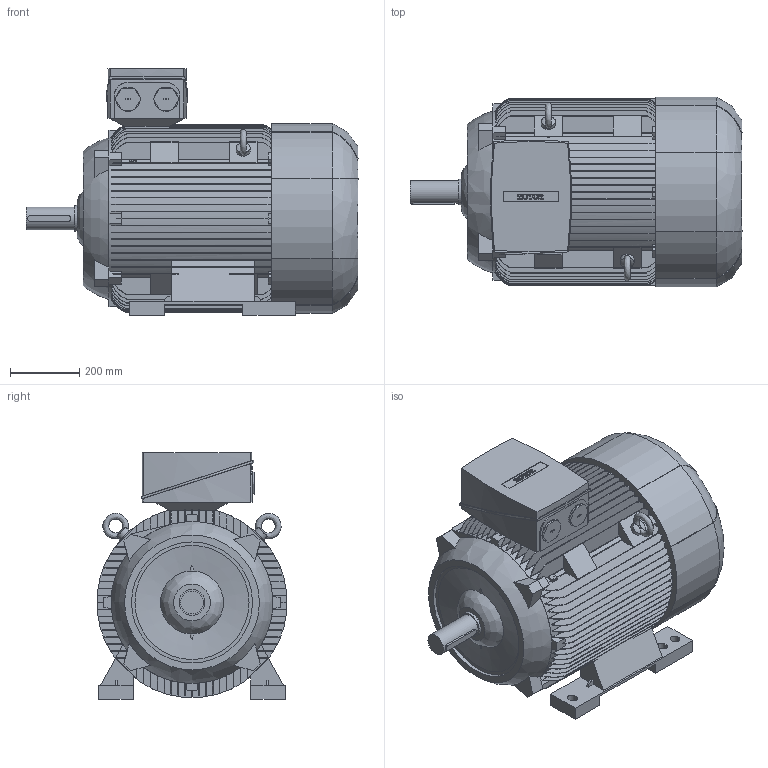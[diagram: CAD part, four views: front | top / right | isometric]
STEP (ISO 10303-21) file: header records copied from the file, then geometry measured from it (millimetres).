
FILE_DESCRIPTION (( 'STEP AP214' ), '1' );
FILE_NAME ('6RN280S02E10 IM1001.STEP', '2016-02-12T09:39:51', ( 'rotor' ), ( 'Hewlett-Packard Company' ), 'SwSTEP 2.0', 'SolidWorks 2012', '' );
FILE_SCHEMA (( 'AUTOMOTIVE_DESIGN' ));
Length unit declared in the file: millimetre
Products named in the file (1): 6RN280S02E10 IM1001
Bounding box: 960 x 548.96 x 713 mm (x, y, z)
Volume: 168158725.9 mm3; surface area: 4733635.1 mm2
Topology: 1 solids, 1 shells, 1047 faces, 3090 edges, 2056 vertices
Faces by surface type: plane 670, bspline 220, cylinder 152, cone 5
Full cylindrical faces by diameter (mm): 5 x1, 20 x4, 40 x2, 65 x1, 70 x2, 75 x1, 350 x1
Entity records: 54089 total; most frequent: CARTESIAN_POINT 17393, ORIENTED_EDGE 6124, DIRECTION 4718, EDGE_CURVE 3062, VERTEX_POINT 2045, LINE 1800, VECTOR 1800, AXIS2_PLACEMENT_3D 1459
